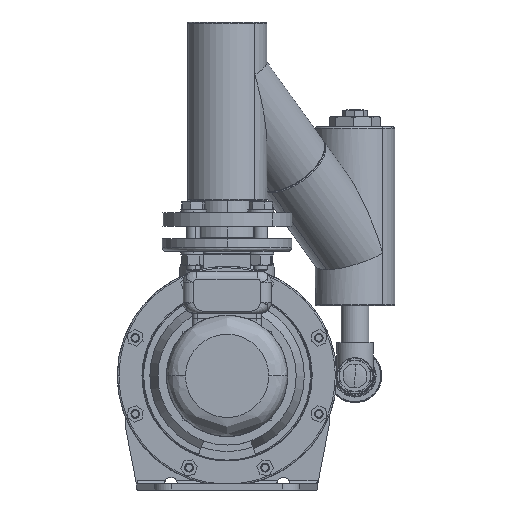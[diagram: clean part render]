
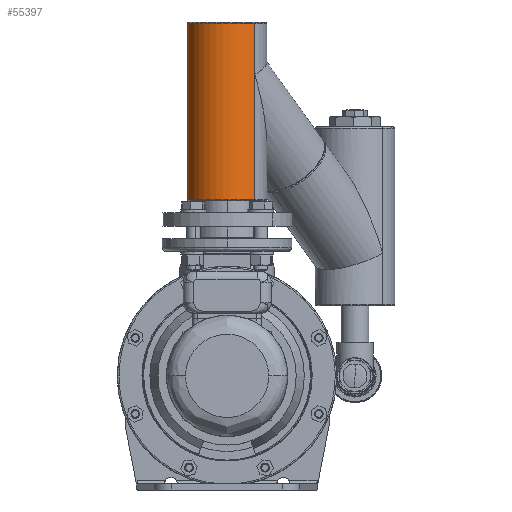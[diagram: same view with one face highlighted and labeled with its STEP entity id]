
A CAD part, front view. The second image highlights one B-rep face of the part: STEP entity #55397.
In plain terms, the highlighted cylindrical face has radius 46 mm (diameter 92 mm), a partial arc.
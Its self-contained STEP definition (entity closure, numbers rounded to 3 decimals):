
#45774 = CIRCLE ( 'NONE', #46150, 46. ) ;
#45825 = DIRECTION ( 'NONE',  ( 0., 0., -1. ) ) ;
#45892 = CARTESIAN_POINT ( 'NONE',  ( -154.478, -250.887, 433.2 ) ) ;
#46110 = DIRECTION ( 'NONE',  ( 0.697, -0.717, 0. ) ) ;
#46150 = AXIS2_PLACEMENT_3D ( 'NONE', #45892, #45825, #46110 ) ;
#46257 = CARTESIAN_POINT ( 'NONE',  ( -122.403, -283.859, 433.2 ) ) ;
#46557 = CARTESIAN_POINT ( 'NONE',  ( -186.554, -217.914, 433.2 ) ) ;
#47430 = CARTESIAN_POINT ( 'NONE',  ( -186.554, -217.914, 228.75 ) ) ;
#47461 = CARTESIAN_POINT ( 'NONE',  ( -122.403, -283.859, 228.75 ) ) ;
#47534 = CARTESIAN_POINT ( 'NONE',  ( -154.478, -250.887, 228.75 ) ) ;
#47537 = AXIS2_PLACEMENT_3D ( 'NONE', #47534, #47635, #47634 ) ;
#47563 = CIRCLE ( 'NONE', #47537, 46. ) ;
#47634 = DIRECTION ( 'NONE',  ( 0.697, -0.717, 0. ) ) ;
#47635 = DIRECTION ( 'NONE',  ( 0., 0., 1. ) ) ;
#55366 = ORIENTED_EDGE ( 'NONE', *, *, #87782, .T. ) ;
#55397 = ADVANCED_FACE ( 'NONE', ( #89393 ), #89523, .T. ) ;
#55405 = ORIENTED_EDGE ( 'NONE', *, *, #87253, .T. ) ;
#55417 = ORIENTED_EDGE ( 'NONE', *, *, #87838, .F. ) ;
#55418 = ORIENTED_EDGE ( 'NONE', *, *, #86988, .T. ) ;
#55429 = ORIENTED_EDGE ( 'NONE', *, *, #88105, .F. ) ;
#55458 = EDGE_LOOP ( 'NONE', ( #55417, #55405, #55366, #55470, #55418, #55429 ) ) ;
#55470 = ORIENTED_EDGE ( 'NONE', *, *, #87961, .T. ) ;
#75139 = CARTESIAN_POINT ( 'NONE',  ( -122.403, -283.859, 373.475 ) ) ;
#75181 = DIRECTION ( 'NONE',  ( 0., 0., 1. ) ) ;
#75183 = CARTESIAN_POINT ( 'NONE',  ( -122.403, -283.859, 330.975 ) ) ;
#75235 = VECTOR ( 'NONE', #75181, 1000. ) ;
#75268 = LINE ( 'NONE', #75183, #75235 ) ;
#75273 = LINE ( 'NONE', #75406, #75405 ) ;
#75404 = DIRECTION ( 'NONE',  ( 0., 0., 1. ) ) ;
#75405 = VECTOR ( 'NONE', #75404, 1000. ) ;
#75406 = CARTESIAN_POINT ( 'NONE',  ( -186.554, -217.914, 330.975 ) ) ;
#75424 = CARTESIAN_POINT ( 'NONE',  ( -186.554, -217.914, 373.475 ) ) ;
#75496 = VECTOR ( 'NONE', #75555, 1000. ) ;
#75506 = LINE ( 'NONE', #75556, #75496 ) ;
#75555 = DIRECTION ( 'NONE',  ( 0., 0., 1. ) ) ;
#75556 = CARTESIAN_POINT ( 'NONE',  ( -186.554, -217.914, 330.975 ) ) ;
#75654 = DIRECTION ( 'NONE',  ( 0., 0., 1. ) ) ;
#75656 = VECTOR ( 'NONE', #75654, 1000. ) ;
#75658 = CARTESIAN_POINT ( 'NONE',  ( -122.403, -283.859, 330.975 ) ) ;
#75659 = LINE ( 'NONE', #75658, #75656 ) ;
#86988 = EDGE_CURVE ( 'NONE', #87030, #87104, #45774, .T. ) ;
#87030 = VERTEX_POINT ( 'NONE', #46257 ) ;
#87104 = VERTEX_POINT ( 'NONE', #46557 ) ;
#87244 = VERTEX_POINT ( 'NONE', #47430 ) ;
#87253 = EDGE_CURVE ( 'NONE', #87244, #87255, #47563, .T. ) ;
#87255 = VERTEX_POINT ( 'NONE', #47461 ) ;
#87777 = VERTEX_POINT ( 'NONE', #75139 ) ;
#87782 = EDGE_CURVE ( 'NONE', #87255, #87777, #75268, .T. ) ;
#87838 = EDGE_CURVE ( 'NONE', #87244, #87890, #75273, .T. ) ;
#87890 = VERTEX_POINT ( 'NONE', #75424 ) ;
#87961 = EDGE_CURVE ( 'NONE', #87777, #87030, #75659, .T. ) ;
#88105 = EDGE_CURVE ( 'NONE', #87890, #87104, #75506, .T. ) ;
#89387 = CARTESIAN_POINT ( 'NONE',  ( -154.478, -250.887, 330.975 ) ) ;
#89393 = FACE_OUTER_BOUND ( 'NONE', #55458, .T. ) ;
#89501 = DIRECTION ( 'NONE',  ( 0.697, -0.717, 0. ) ) ;
#89505 = DIRECTION ( 'NONE',  ( 0., 0., 1. ) ) ;
#89523 = CYLINDRICAL_SURFACE ( 'NONE', #89530, 46. ) ;
#89530 = AXIS2_PLACEMENT_3D ( 'NONE', #89387, #89505, #89501 ) ;
